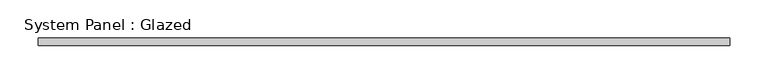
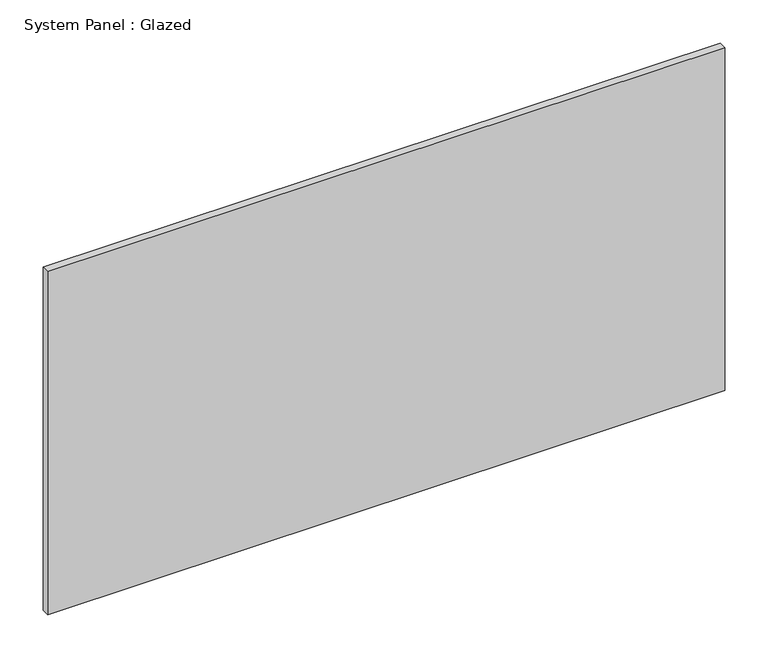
"""IFC4 building model written with IfcOpenShell, lengths in millimetres: plate geometry, System Panel : Glazed."""

import ifcopenshell
import ifcopenshell.guid

model = None  # the IFC model being written
_history = None  # IfcOwnerHistory: only IFC2X3 demands one
_inside = {}  # id of a spatial element -> (the spatial element, [elements in it])
_under = {}  # id of a project, library or spatial element -> (it, [spatial elements below it])
_declared = {}  # id of a project -> (the project, [libraries it declares])
_typed = {}  # id of a type object -> (the type object, [elements of that type])
_made_of = {}  # id of a material, layer set ... -> (it, [elements and type objects made of it])


def new_model(schema):
    """Start an empty IFC model of exactly this schema.

    Asked for "IFC4X3", IfcOpenShell would pick the latest addendum, in which some entities
    have other attributes; the version numbers below select the first issue.
    IFC2X3 requires an IfcOwnerHistory on every rooted entity: one is made here for all.
    """
    global model, _history
    if schema == "IFC4X3":
        model = ifcopenshell.file(schema_version=(4, 3, 0, 0))
    else:
        model = ifcopenshell.file(schema=schema)
    _inside.clear()
    _under.clear()
    _declared.clear()
    _typed.clear()
    _made_of.clear()
    _history = None
    if model.schema == "IFC2X3":
        org = make("IfcOrganization", Name="unknown")
        user = make(
            "IfcPersonAndOrganization",
            ThePerson=make("IfcPerson", FamilyName="unknown"),
            TheOrganization=org,
        )
        app = make(
            "IfcApplication",
            ApplicationDeveloper=org,
            Version="unknown",
            ApplicationFullName="unknown",
            ApplicationIdentifier="unknown",
        )
        _history = make(
            "IfcOwnerHistory",
            OwningUser=user,
            OwningApplication=app,
            ChangeAction="ADDED",
            CreationDate=0,
        )
    return model


def make(cls, **values):
    """One entity of the class cls with the attributes given. An attribute that is None is left unset."""
    return model.create_entity(
        cls, **{name: value for name, value in values.items() if value is not None}
    )


def rooted(cls, **values):
    """An entity with a GlobalId (a new one), such as an element, a storey or a relation."""
    return make(cls, GlobalId=ifcopenshell.guid.new(), OwnerHistory=_history, **values)


def si_unit(unit_type, name, prefix=None):
    """IfcSIUnit, for example si_unit("LENGTHUNIT", "METRE", prefix="MILLI")."""
    return make("IfcSIUnit", UnitType=unit_type, Prefix=prefix, Name=name)


def assignment(units):
    """IfcUnitAssignment: the units of a project."""
    return None if units is None else make("IfcUnitAssignment", Units=units)


def point(xyz):
    """IfcCartesianPoint."""
    return None if xyz is None else make("IfcCartesianPoint", Coordinates=xyz)


def direction(xyz):
    """IfcDirection."""
    return None if xyz is None else make("IfcDirection", DirectionRatios=xyz)


def frame(location, z_axis=None, x_axis=None):
    """IfcAxis2Placement3D, a coordinate frame: its origin and axes. An axis left out is left unset."""
    return make(
        "IfcAxis2Placement3D",
        Location=point(location),
        Axis=direction(z_axis),
        RefDirection=direction(x_axis),
    )


def origin():
    """The frame at (0, 0, 0) with its axes left unset."""
    return frame((0.0, 0.0, 0.0))


def origin_with_axes():
    """The frame at (0, 0, 0) with the z axis (0, 0, 1) and the x axis (1, 0, 0) written out."""
    return frame((0.0, 0.0, 0.0), z_axis=(0.0, 0.0, 1.0), x_axis=(1.0, 0.0, 0.0))


def place(relative_to, where):
    """IfcLocalPlacement: puts the frame where relative to a parent placement (None: the world)."""
    return make(
        "IfcLocalPlacement", PlacementRelTo=relative_to, RelativePlacement=where
    )


def context(
    kind, dimensions, precision=None, world=None, true_north=None, identifier=None
):
    """IfcGeometricRepresentationContext, for example the 3D "Model" context."""
    return make(
        "IfcGeometricRepresentationContext",
        ContextIdentifier=identifier,
        ContextType=kind,
        CoordinateSpaceDimension=dimensions,
        Precision=precision,
        WorldCoordinateSystem=world,
        TrueNorth=true_north,
    )


def project(units=None, contexts=None):
    """IfcProject with its units and contexts."""
    return rooted(
        "IfcProject",
        Name="project",
        RepresentationContexts=contexts,
        UnitsInContext=assignment(units),
    )


def spatial(cls, under=None, at=None, **own):
    """A site, building, storey or space (cls), placed at a placement, below another one or the project."""
    s = rooted(cls, ObjectPlacement=at, **own)
    if under is not None:
        _under.setdefault(under.id(), (under, []))[1].append(s)
    return s


def polyline(points):
    """IfcPolyline through the points."""
    return make("IfcPolyline", Points=[point(p) for p in points])


def outline(outer, holes=None, kind="AREA"):
    """IfcArbitraryClosedProfileDef: a profile drawn as a closed curve; with holes, ...WithVoids."""
    if holes is None:
        return make("IfcArbitraryClosedProfileDef", ProfileType=kind, OuterCurve=outer)
    return make(
        "IfcArbitraryProfileDefWithVoids",
        ProfileType=kind,
        OuterCurve=outer,
        InnerCurves=holes,
    )


def extrude(swept, where, along, depth):
    """IfcExtrudedAreaSolid: the profile swept, set in the frame where, extruded along a direction by depth."""
    return make(
        "IfcExtrudedAreaSolid",
        SweptArea=swept,
        Position=where,
        ExtrudedDirection=direction(along),
        Depth=depth,
    )


def shape(context_of_items, identifier, shape_type, items):
    """IfcShapeRepresentation: the items that make up one representation, for example the "Body"."""
    return make(
        "IfcShapeRepresentation",
        ContextOfItems=context_of_items,
        RepresentationIdentifier=identifier,
        RepresentationType=shape_type,
        Items=items,
    )


def source(mapping_origin, context_of_items, identifier, shape_type, items):
    """IfcRepresentationMap: a shape defined once, which mapped items show again and again."""
    return make(
        "IfcRepresentationMap",
        MappingOrigin=mapping_origin,
        MappedRepresentation=shape(context_of_items, identifier, shape_type, items),
    )


def transform(
    local_origin,
    x_axis=None,
    y_axis=None,
    z_axis=None,
    scale=None,
    scale2=None,
    scale3=None,
    uniform=True,
):
    """IfcCartesianTransformationOperator3D, or its non-uniform kind. x_axis, y_axis, z_axis: its Axis1, 2, 3."""
    if uniform:
        return make(
            "IfcCartesianTransformationOperator3D",
            Axis1=direction(x_axis),
            Axis2=direction(y_axis),
            LocalOrigin=point(local_origin),
            Scale=scale,
            Axis3=direction(z_axis),
        )
    return make(
        "IfcCartesianTransformationOperator3DnonUniform",
        Axis1=direction(x_axis),
        Axis2=direction(y_axis),
        LocalOrigin=point(local_origin),
        Scale=scale,
        Axis3=direction(z_axis),
        Scale2=scale2,
        Scale3=scale3,
    )


def mapped(mapping_source, mapping_target):
    """IfcMappedItem: shows the shape of a source again, moved by a transform."""
    return make(
        "IfcMappedItem", MappingSource=mapping_source, MappingTarget=mapping_target
    )


def made_of(thing, what):
    """Note that an element or type object is made of a material, layer set ...; save() writes the relation."""
    if what is not None:
        _made_of.setdefault(what.id(), (what, []))[1].append(thing)
    return thing


def element(
    cls,
    number,
    at=None,
    inside=None,
    cuts=None,
    type_object=None,
    material=None,
    context=None,
    identifier="Body",
    shape_type=None,
    held_by="IfcProductDefinitionShape",
    body=None,
    shapes=None,
    **own,
):
    """One element of the class cls, such as IfcWall. Its Tag is "e" and its number.

    at: its placement. inside: the storey or other place that contains it. cuts: it is an
    opening in that element (IfcRelVoidsElement). A single representation is given by context,
    identifier, shape_type and body (its items); several are given by shapes. held_by: the class
    of the entity that holds the representations. save() writes the other relations.
    """
    e = rooted(cls, Tag="e%d" % number, ObjectPlacement=at, **own)
    if body is not None:
        shapes = [shape(context, identifier, shape_type, body)]
    if shapes is not None:
        e.Representation = make(held_by, Representations=shapes)
    if inside is not None:
        _inside.setdefault(inside.id(), (inside, []))[1].append(e)
    if cuts is not None:
        rooted(
            "IfcRelVoidsElement", RelatingBuildingElement=cuts, RelatedOpeningElement=e
        )
    if type_object is not None:
        _typed.setdefault(type_object.id(), (type_object, []))[1].append(e)
    return made_of(e, material)


def aggregate(whole, parts):
    """IfcRelAggregates: a whole, such as a stair, and the parts it consists of."""
    return rooted("IfcRelAggregates", RelatingObject=whole, RelatedObjects=parts)


def save(model, path):
    """Write the relations noted so far, then the file.

    IfcRelAggregates (storeys below a building ...), IfcRelContainedInSpatialStructure (elements
    in a storey), IfcRelDefinesByType, IfcRelAssociatesMaterial and IfcRelDeclares: one each for
    every whole, place, type object, material and project.
    """
    for whole, parts in _under.values():
        aggregate(whole, parts)
    for where, things in _inside.values():
        rooted(
            "IfcRelContainedInSpatialStructure",
            RelatedElements=things,
            RelatingStructure=where,
        )
    for kind, things in _typed.values():
        rooted("IfcRelDefinesByType", RelatedObjects=things, RelatingType=kind)
    for what, things in _made_of.values():
        rooted("IfcRelAssociatesMaterial", RelatedObjects=things, RelatingMaterial=what)
    for by, libraries in _declared.values():
        rooted("IfcRelDeclares", RelatingContext=by, RelatedDefinitions=libraries)
    model.write(path)


def system_panel_glazed_9e3282f8(model_context):
    return source(origin(), model_context, "Body", "SweptSolid", [
        extrude(outline(polyline([(452.477915, -5.0), (-452.477915, -5.0), (-452.477915, 5.0), (452.477915, 5.0), (452.477915, -5.0)])), origin_with_axes(), (0.0, 0.0, 1.0), 485.0),
    ])


if __name__ == "__main__":
    model = new_model("IFC4")
    model_context = context("Model", 3, world=origin())
    ifc_project = project(units=[si_unit("LENGTHUNIT", "METRE", prefix="MILLI")], contexts=[model_context])
    site = spatial("IfcSite", under=ifc_project)
    building = spatial("IfcBuilding", under=site)
    placement = place(None, origin())
    system_panel_glazed_shape = system_panel_glazed_9e3282f8(model_context)
    element("IfcPlate", 1, ObjectType="System Panel : Glazed", at=placement, inside=building, context=model_context, shape_type="MappedRepresentation", body=[
        mapped(system_panel_glazed_shape, transform((0.0, 0.0, 0.0), x_axis=(1.0, 0.0, 0.0), y_axis=(0.0, 1.0, 0.0), z_axis=(0.0, 0.0, 1.0))),
    ])
    save(model, "model.ifc")
